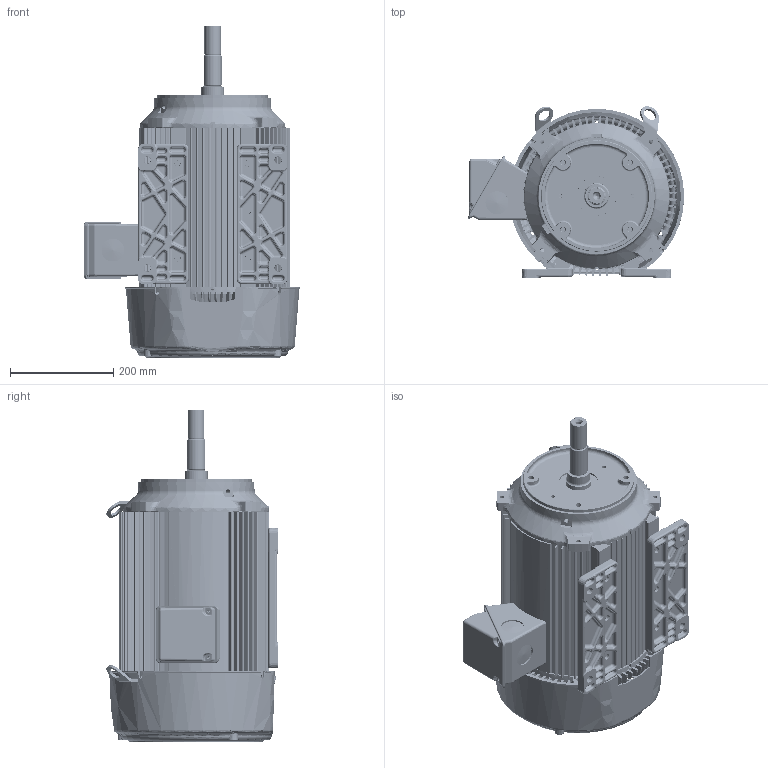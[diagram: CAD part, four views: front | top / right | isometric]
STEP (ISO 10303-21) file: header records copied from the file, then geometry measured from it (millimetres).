
FILE_DESCRIPTION((''),'2;1');
FILE_NAME('CCP_CFACE_ASM','2014-07-02T',('emd2341'),('Nidec Motor Corporation'),'PRO/ENGINEER BY PARAMETRIC TECHNOLOGY CORPORATION, 2013150','PRO/ENGINEER BY PARAMETRIC TECHNOLOGY CORPORATION, 2013150','');
FILE_SCHEMA(('CONFIG_CONTROL_DESIGN'));
Length unit declared in the file: inch
Products named in the file (16): 0375095_AF0; 0364229-OBB; 0375099-BKT_AF3; 0360239_AF2; 0375600_ASM; 0364285; 0374700-BKT_AF0; 0378229_AF0; 1001043_ASM; 0183520; 0373875; 0364236; 0369733; 0361372; 0361371; CCP_CFACE_ASM
Assembly tree (16 placements, depth 3):
  CCP_CFACE_ASM
    0375095_AF0
    0364229-OBB
    0375600_ASM
      0375099-BKT_AF3
      0360239_AF2
    0364285
    1001043_ASM
      0374700-BKT_AF0
      0378229_AF0
    0183520
    0373875
    0364236
    0369733  x2
    0361372
    0361371
Bounding box: 420.11 x 332.46 x 644.63 mm (x, y, z)
Volume: 7290942.8 mm3; surface area: 2369040.4 mm2
Topology: 16 solids, 16 shells, 5796 faces, 14431 edges, 8633 vertices
Faces by surface type: bspline 2042, plane 1343, cylinder 1220, cone 554, torus 424, sphere 193, extrusion 20
Entity records: 258994 total; most frequent: CARTESIAN_POINT 136597, ORIENTED_EDGE 28690, DIRECTION 20897, EDGE_CURVE 14345, VERTEX_POINT 8609, AXIS2_PLACEMENT_3D 8164, EDGE_LOOP 6006, FACE_OUTER_BOUND 5778
